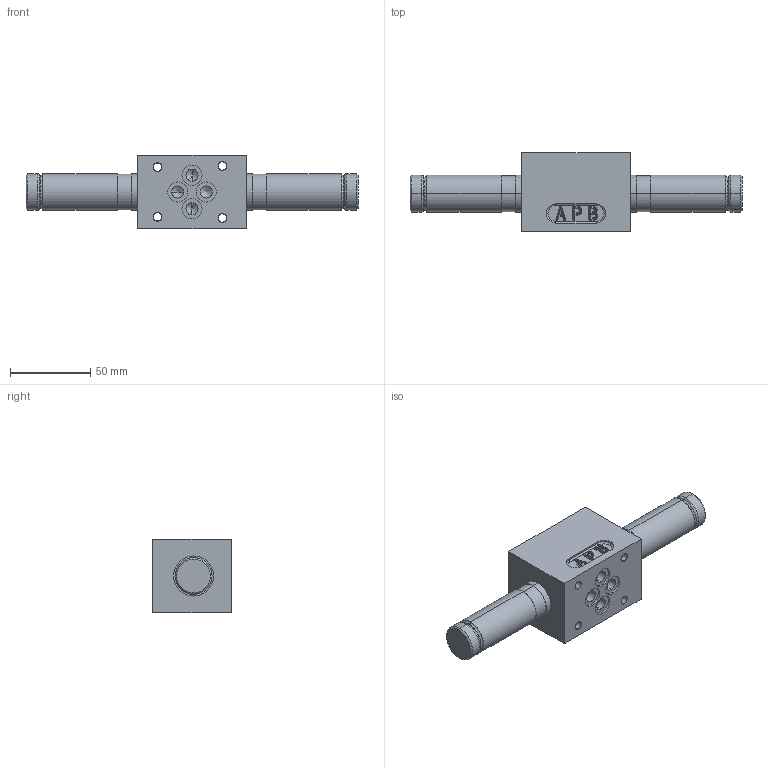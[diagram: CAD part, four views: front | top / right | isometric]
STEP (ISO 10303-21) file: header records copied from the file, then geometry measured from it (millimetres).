
FILE_DESCRIPTION (( 'STEP AP214' ), '1' );
FILE_NAME ('WDMFA06-4_3.STEP', '2015-10-22T08:14:38', ( '' ), ( '' ), 'SwSTEP 2.0', 'SolidWorks 2014', '' );
FILE_SCHEMA (( 'AUTOMOTIVE_DESIGN' ));
Length unit declared in the file: millimetre
Products named in the file (2): WDMFA06-4_3
Bounding box: 207.4 x 49 x 46 mm (x, y, z)
Volume: 200892.4 mm3; surface area: 36607.7 mm2
Topology: 5 solids, 6 shells, 506 faces, 1133 edges, 620 vertices
Faces by surface type: cylinder 217, plane 85, torus 77, sphere 57, bspline 52, cone 18
Entity records: 22111 total; most frequent: CARTESIAN_POINT 5455, DIRECTION 2525, ORIENTED_EDGE 2158, EDGE_CURVE 1079, AXIS2_PLACEMENT_3D 1070, VERTEX_POINT 619, CIRCLE 614, EDGE_LOOP 558
